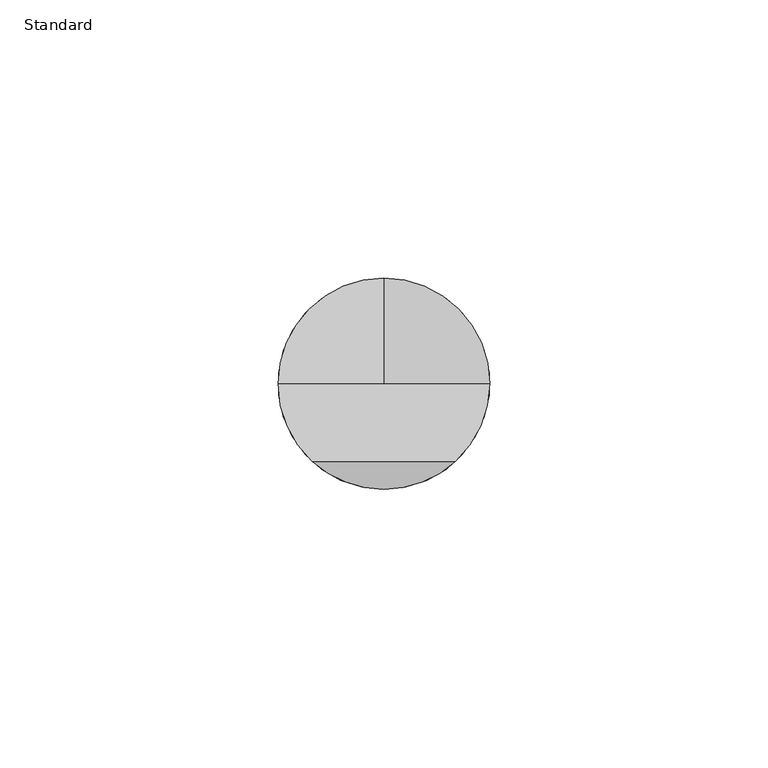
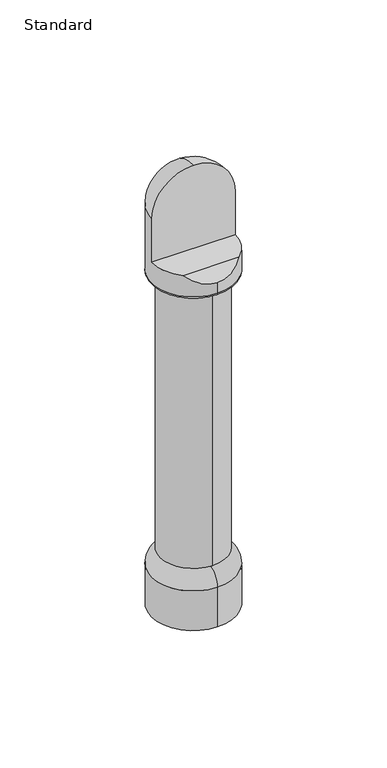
"""IFC4 building model written with IfcOpenShell, lengths in millimetres: furniture geometry, X_Partition-Foot-Duracube-Assembly : Standard."""

from ifc_helpers import new_model, si_unit, point, frame, origin, place, context, project, spatial, polyline, circle_curve, ellipse_curve, trimmed, source, transform, mapped, element, save
from ifc_brep_helpers import plane_surface, cylinder_surface, revolved_surface, advanced_brep


def standard_d7762a54(model_context):
    return source(origin(), model_context, "Body", "AdvancedBrep", [
        advanced_brep(
        [(44.7003264, -32.0, 27.0), (44.7003264, -8.0, 27.0), (44.7003264, -8.0, 26.0), (44.7003264, -32.0, 26.0), (44.7003264, -30.0, 27.0), (44.7003264, -10.0, 27.0), (44.7003264, -30.0, 0.0), (44.7003264, -10.0, 0.0), (44.7003264, -39.0, 0.0), (44.7003264, -1.0, 0.0), (44.7003264, -39.0, 19.0), (44.7003264, -1.0, 19.0)],
        [
            (0, 1, circle_curve(frame((44.7003264, -20.0, 27.0), z_axis=(0.0, 0.0, -1.0), x_axis=(0.0, 1.0, 0.0)), 12.0)),
            (1, 2),
            (2, 3, circle_curve(frame((44.7003264, -20.0, 26.0), z_axis=(0.0, 0.0, 1.0), x_axis=(0.0, 1.0, 0.0)), 12.0)),
            (3, 0),
            (1, 0, circle_curve(frame((44.7003264, -20.0, 27.0), z_axis=(0.0, 0.0, -1.0), x_axis=(0.0, 1.0, 0.0)), 12.0)),
            (3, 2, circle_curve(frame((44.7003264, -20.0, 26.0), z_axis=(0.0, 0.0, 1.0), x_axis=(0.0, 1.0, 0.0)), 12.0)),
            (4, 5, circle_curve(frame((44.7003264, -20.0, 27.0), z_axis=(0.0, 0.0, -1.0), x_axis=(0.0, 1.0, 0.0)), 10.0)),
            (5, 1),
            (0, 4),
            (5, 4, circle_curve(frame((44.7003264, -20.0, 27.0), z_axis=(0.0, 0.0, -1.0), x_axis=(0.0, 1.0, 0.0)), 10.0)),
            (6, 7, circle_curve(frame((44.7003264, -20.0, 0.0), z_axis=(0.0, 0.0, -1.0), x_axis=(0.0, 1.0, 0.0)), 10.0)),
            (7, 5),
            (4, 6),
            (7, 6, circle_curve(frame((44.7003264, -20.0, 0.0), z_axis=(0.0, 0.0, -1.0), x_axis=(0.0, 1.0, 0.0)), 10.0)),
            (8, 9, circle_curve(frame((44.7003264, -20.0, 0.0), z_axis=(0.0, 0.0, -1.0), x_axis=(0.0, 1.0, 0.0)), 19.0)),
            (9, 7),
            (6, 8),
            (9, 8, circle_curve(frame((44.7003264, -20.0, 0.0), z_axis=(0.0, 0.0, -1.0), x_axis=(0.0, 1.0, 0.0)), 19.0)),
            (10, 11, circle_curve(frame((44.7003264, -20.0, 19.0), z_axis=(0.0, 0.0, -1.0), x_axis=(0.0, 1.0, 0.0)), 19.0)),
            (11, 9),
            (8, 10),
            (11, 10, circle_curve(frame((44.7003264, -20.0, 19.0), z_axis=(0.0, 0.0, -1.0), x_axis=(0.0, 1.0, 0.0)), 19.0)),
            (2, 11, circle_curve(frame((44.7003264, -8.0, 19.0), z_axis=(-1.0, 0.0, 0.0), x_axis=(0.0, 1.0, 0.0)), 7.0)),
            (10, 3, circle_curve(frame((44.7003264, -32.0, 19.0), z_axis=(-1.0, 0.0, 0.0), x_axis=(0.0, -1.0, 0.0)), 7.0)),
        ],
        [
            cylinder_surface(frame((44.7003264, -20.0, 0.0), z_axis=(0.0, 0.0, 1.0), x_axis=(0.0, 1.0, 0.0)), 12.0),
            plane_surface(frame((44.7003264, -20.0, 27.0), z_axis=(0.0, 0.0, 1.0), x_axis=(0.0, 1.0, 0.0))),
            revolved_surface(polyline([(44.7003264, -10.0, 27.0), (44.7003264, -10.0, 0.0)]), (44.7003264, -20.0, 0.0), (0.0, 0.0, 1.0)),
            plane_surface(frame((44.7003264, -20.0, 0.0), z_axis=(0.0, 0.0, -1.0), x_axis=(0.0, 1.0, 0.0))),
            cylinder_surface(frame((44.7003264, -20.0, 0.0), z_axis=(0.0, 0.0, 1.0), x_axis=(0.0, 1.0, 0.0)), 19.0),
            revolved_surface(trimmed(ellipse_curve(frame((44.7003264, -8.0, 19.0), z_axis=(1.0, 0.0, 0.0), x_axis=(0.0, 1.0, 0.0)), 7.0, 7.0), [point((44.7003264, -1.0, 19.0))], [point((44.7003264, -8.0, 26.0))], True, "CARTESIAN"), (44.7003264, -20.0, 0.0), (0.0, 0.0, 1.0)),
        ],
        [
            (0, [[1, 2, 3, 4]]),
            (0, [[5, -4, 6, -2]]),
            (1, [[7, 8, -1, 9]]),
            (1, [[10, -9, -5, -8]]),
            (2, [[11, 12, -7, 13]]),
            (2, [[14, -13, -10, -12]]),
            (3, [[15, 16, -11, 17]]),
            (3, [[18, -17, -14, -16]]),
            (4, [[19, 20, -15, 21]]),
            (4, [[22, -21, -18, -20]]),
            (5, [[-3, 23, -19, 24]]),
            (5, [[-6, -24, -22, -23]]),
        ],
    ),
        advanced_brep(
        [(44.7003264, -35.0, 27.0), (44.7003264, -5.0, 27.0), (44.7003264, -20.0, 27.0), (44.7003264, -35.0, 159.0), (44.7003264, -5.0, 159.0), (44.7003264, -20.0, 159.0)],
        [
            (0, 1, circle_curve(frame((44.7003264, -20.0, 27.0), z_axis=(0.0, 0.0, -1.0), x_axis=(0.0, 1.0, 0.0)), 15.0)),
            (1, 2),
            (2, 0),
            (1, 0, circle_curve(frame((44.7003264, -20.0, 27.0), z_axis=(0.0, 0.0, -1.0), x_axis=(0.0, 1.0, 0.0)), 15.0)),
            (3, 4, circle_curve(frame((44.7003264, -20.0, 159.0), z_axis=(0.0, 0.0, -1.0), x_axis=(0.0, 1.0, 0.0)), 15.0)),
            (4, 1),
            (0, 3),
            (4, 3, circle_curve(frame((44.7003264, -20.0, 159.0), z_axis=(0.0, 0.0, -1.0), x_axis=(0.0, 1.0, 0.0)), 15.0)),
            (5, 4),
            (3, 5),
        ],
        [
            plane_surface(frame((44.7003264, -20.0, 27.0), z_axis=(0.0, 0.0, -1.0), x_axis=(0.0, 1.0, 0.0))),
            cylinder_surface(frame((44.7003264, -20.0, 167.0), z_axis=(0.0, 0.0, 1.0), x_axis=(0.0, 1.0, 0.0)), 15.0),
            plane_surface(frame((44.7003264, -20.0, 159.0), z_axis=(0.0, 0.0, 1.0), x_axis=(0.0, 1.0, 0.0))),
        ],
        [
            (0, [[1, 2, 3]]),
            (0, [[4, -3, -2]]),
            (1, [[5, 6, -1, 7]]),
            (1, [[8, -7, -4, -6]]),
            (2, [[9, -5, 10]]),
            (2, [[-10, -8, -9]]),
        ],
    ),
        advanced_brep(
        [(44.7003264, -38.0, 159.0), (44.7003264, -2.0, 159.0), (44.7003264, -15.0, 159.0), (44.7003264, -25.0, 159.0), (44.7003264, -15.0, 27.0), (44.7003264, -25.0, 27.0), (44.7003264, -20.0, 27.0), (44.7003264, -39.0, 160.0), (44.7003264, -1.0, 160.0), (44.7003264, -39.0, 165.0), (31.8550939, -34.0, 170.0), (25.7003264, -20.0, 170.0), (25.7003264, -20.0, 191.0), (44.7003264, -1.0, 191.0), (63.7003264, -20.0, 191.0), (63.7003264, -20.0, 170.0), (57.545559, -34.0, 170.0), (44.7003264, -20.0, 210.0)],
        [
            (0, 1, circle_curve(frame((44.7003264, -20.0, 159.0), z_axis=(0.0, 0.0, -1.0), x_axis=(0.0, 1.0, 0.0)), 18.0)),
            (1, 2),
            (2, 3, circle_curve(frame((44.7003264, -20.0, 159.0), z_axis=(0.0, 0.0, 1.0), x_axis=(0.0, 1.0, 0.0)), 5.0)),
            (3, 0),
            (1, 0, circle_curve(frame((44.7003264, -20.0, 159.0), z_axis=(0.0, 0.0, -1.0), x_axis=(0.0, 1.0, 0.0)), 18.0)),
            (3, 2, circle_curve(frame((44.7003264, -20.0, 159.0), z_axis=(0.0, 0.0, 1.0), x_axis=(0.0, 1.0, 0.0)), 5.0)),
            (2, 4),
            (4, 5, circle_curve(frame((44.7003264, -20.0, 27.0), z_axis=(0.0, 0.0, 1.0), x_axis=(0.0, 1.0, 0.0)), 5.0)),
            (5, 3),
            (5, 4, circle_curve(frame((44.7003264, -20.0, 27.0), z_axis=(0.0, 0.0, 1.0), x_axis=(0.0, 1.0, 0.0)), 5.0)),
            (4, 6),
            (6, 5),
            (0, 7, circle_curve(frame((44.7003264, -38.0, 160.0), z_axis=(-1.0, 0.0, 0.0), x_axis=(0.0, -1.0, 0.0)), 1.0)),
            (7, 8, circle_curve(frame((44.7003264, -20.0, 160.0), z_axis=(0.0, 0.0, -1.0), x_axis=(0.0, 1.0, 0.0)), 19.0)),
            (8, 1, circle_curve(frame((44.7003264, -2.0, 160.0), z_axis=(-1.0, 0.0, 0.0), x_axis=(0.0, 1.0, 0.0)), 1.0)),
            (8, 7, circle_curve(frame((44.7003264, -20.0, 160.0), z_axis=(0.0, 0.0, -1.0), x_axis=(0.0, 1.0, 0.0)), 19.0)),
            (7, 9),
            (9, 10, ellipse_curve(frame((44.7003264, -20.0, 184.0), z_axis=(0.0, 0.707106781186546, -0.707106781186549), x_axis=(0.0, 0.707106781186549, 0.7071067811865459)), 26.8700577, 19.0)),
            (10, 11, circle_curve(frame((44.7003264, -20.0, 170.0), z_axis=(0.0, 0.0, -1.0), x_axis=(0.0, 1.0, 0.0)), 19.0)),
            (11, 12),
            (12, 13, circle_curve(frame((44.7003264, -20.0, 191.0), z_axis=(0.0, 0.0, -1.0), x_axis=(0.0, 1.0, 0.0)), 19.0)),
            (13, 8),
            (13, 14, circle_curve(frame((44.7003264, -20.0, 191.0), z_axis=(0.0, 0.0, -1.0), x_axis=(0.0, 1.0, 0.0)), 19.0)),
            (14, 15),
            (15, 16, circle_curve(frame((44.7003264, -20.0, 170.0), z_axis=(0.0, 0.0, -1.0), x_axis=(0.0, 1.0, 0.0)), 19.0)),
            (16, 9, ellipse_curve(frame((44.7003264, -20.0, 184.0), z_axis=(0.0, 0.707106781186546, -0.707106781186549), x_axis=(0.0, 0.707106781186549, 0.7071067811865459)), 26.8700577, 19.0)),
            (17, 13, circle_curve(frame((44.7003264, -20.0, 191.0), z_axis=(-1.0, 0.0, 0.0), x_axis=(0.0, 1.0, 0.0)), 19.0)),
            (12, 17, circle_curve(frame((44.7003264, -20.0, 191.0), z_axis=(0.0, 1.0, 0.0), x_axis=(-1.0, 0.0, 0.0)), 19.0)),
            (17, 14, circle_curve(frame((44.7003264, -20.0, 191.0), z_axis=(0.0, 1.0, 0.0), x_axis=(1.0, 0.0, 0.0)), 19.0)),
            (10, 16),
            (15, 11),
        ],
        [
            plane_surface(frame((44.7003264, -20.0, 159.0), z_axis=(0.0, 0.0, -1.0), x_axis=(0.0, 1.0, 0.0))),
            cylinder_surface(frame((44.7003264, -20.0, 210.0), z_axis=(0.0, 0.0, 1.0), x_axis=(0.0, 1.0, 0.0)), 5.0),
            plane_surface(frame((44.7003264, -20.0, 27.0), z_axis=(0.0, 0.0, -1.0), x_axis=(0.0, 1.0, 0.0))),
            revolved_surface(trimmed(ellipse_curve(frame((44.7003264, -2.0, 160.0), z_axis=(1.0, 0.0, 0.0), x_axis=(0.0, 1.0, 0.0)), 1.0, 1.0), [point((44.7003264, -2.0, 159.0))], [point((44.7003264, -1.0, 160.0))], True, "CARTESIAN"), (44.7003264, -20.0, 210.0), (0.0, 0.0, 1.0)),
            cylinder_surface(frame((44.7003264, -20.0, 210.0), z_axis=(0.0, 0.0, 1.0), x_axis=(0.0, 1.0, 0.0)), 19.0),
            revolved_surface(trimmed(ellipse_curve(frame((44.7003264, -20.0, 191.0), z_axis=(1.0, 0.0, 0.0), x_axis=(0.0, 1.0, 0.0)), 19.0, 19.0), [point((44.7003264, -1.0, 191.0))], [point((44.7003264, -20.0, 210.0))], True, "CARTESIAN"), (44.7003264, -20.0, 210.0), (0.0, 0.0, 1.0)),
            plane_surface(frame((64.7003264, -34.0, 170.0), z_axis=(0.0, 0.0, 1.0), x_axis=(-1.0, 0.0, 0.0))),
            plane_surface(frame((64.7003264, -20.0, 170.0), z_axis=(0.0, -1.0, 0.0), x_axis=(-1.0, 0.0, 0.0))),
            plane_surface(frame((64.7003264, -40.0, 164.0), z_axis=(0.0, -0.707106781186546, 0.707106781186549), x_axis=(-1.0, 0.0, 0.0))),
        ],
        [
            (0, [[1, 2, 3, 4]]),
            (0, [[-2, 5, -4, 6]]),
            (1, [[-3, 7, 8, 9]]),
            (1, [[-6, -9, 10, -7]]),
            (2, [[-8, 11, 12]]),
            (2, [[-10, -12, -11]]),
            (3, [[-1, 13, 14, 15]]),
            (3, [[-5, -15, 16, -13]]),
            (4, [[-14, 17, 18, 19, 20, 21, 22]]),
            (4, [[-16, -22, 23, 24, 25, 26, -17]]),
            (5, [[27, -21, 28]]),
            (5, [[-27, 29, -23]]),
            (6, [[30, -25, 31, -19]]),
            (7, [[-31, -24, -29, -28, -20]]),
            (8, [[-30, -18, -26]]),
        ],
    ),
    ])


if __name__ == "__main__":
    model = new_model("IFC4")
    model_context = context("Model", 3, world=origin())
    ifc_project = project(units=[si_unit("LENGTHUNIT", "METRE", prefix="MILLI")], contexts=[model_context])
    site = spatial("IfcSite", under=ifc_project)
    building = spatial("IfcBuilding", under=site)
    placement = place(None, origin())
    standard_shape = standard_d7762a54(model_context)
    element("IfcFurniture", 1, ObjectType="X_Partition-Foot-Duracube-Assembly : Standard", at=placement, inside=building, context=model_context, shape_type="MappedRepresentation", body=[
        mapped(standard_shape, transform((0.0, 0.0, 0.0), x_axis=(1.0, 0.0, 0.0), y_axis=(0.0, 1.0, 0.0), z_axis=(0.0, 0.0, 1.0))),
    ])
    save(model, "model.ifc")
